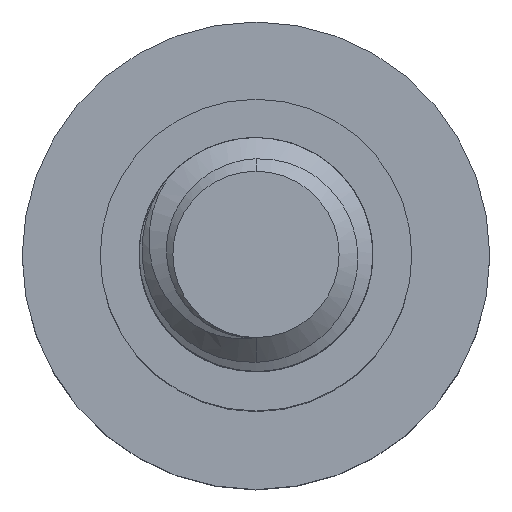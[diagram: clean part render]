
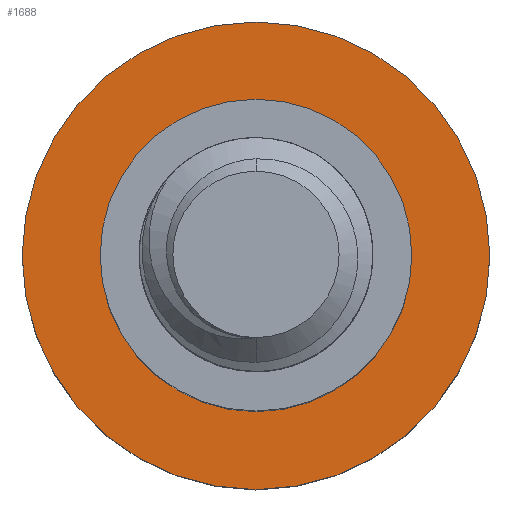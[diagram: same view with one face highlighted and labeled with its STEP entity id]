
A CAD part, top view. The second image highlights one B-rep face of the part: STEP entity #1688.
In plain terms, the highlighted planar face has unit normal (0, 0, 1).
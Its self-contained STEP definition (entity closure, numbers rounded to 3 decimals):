
#41 = CIRCLE ( 'NONE', #1352, 4. ) ;
#81 = DIRECTION ( 'NONE',  ( 0., 0., -1. ) ) ;
#154 = CARTESIAN_POINT ( 'NONE',  ( 0., 0., -10. ) ) ;
#464 = ORIENTED_EDGE ( 'NONE', *, *, #2456, .F. ) ;
#524 = AXIS2_PLACEMENT_3D ( 'NONE', #3650, #81, #2008 ) ;
#775 = DIRECTION ( 'NONE',  ( 0., 0., -1. ) ) ;
#866 = AXIS2_PLACEMENT_3D ( 'NONE', #154, #1086, #2798 ) ;
#1079 = CARTESIAN_POINT ( 'NONE',  ( -6., 0., -10. ) ) ;
#1086 = DIRECTION ( 'NONE',  ( 0., 0., -1. ) ) ;
#1151 = CARTESIAN_POINT ( 'NONE',  ( 0., 0., -10. ) ) ;
#1168 = VERTEX_POINT ( 'NONE', #1079 ) ;
#1172 = CARTESIAN_POINT ( 'NONE',  ( 0., 0., -10. ) ) ;
#1352 = AXIS2_PLACEMENT_3D ( 'NONE', #1172, #3394, #3430 ) ;
#1410 = EDGE_LOOP ( 'NONE', ( #4034, #464 ) ) ;
#1688 = ADVANCED_FACE ( 'NONE', ( #2678, #4251 ), #2936, .F. ) ;
#1753 = DIRECTION ( 'NONE',  ( -1., 0., 0. ) ) ;
#1820 = CARTESIAN_POINT ( 'NONE',  ( 0., 0., -10. ) ) ;
#1921 = EDGE_CURVE ( 'NONE', #2736, #1168, #2441, .T. ) ;
#2002 = EDGE_CURVE ( 'NONE', #2349, #2182, #41, .T. ) ;
#2008 = DIRECTION ( 'NONE',  ( -1., 0., 0. ) ) ;
#2035 = CIRCLE ( 'NONE', #866, 4. ) ;
#2176 = CARTESIAN_POINT ( 'NONE',  ( -4., 0., -10. ) ) ;
#2182 = VERTEX_POINT ( 'NONE', #3371 ) ;
#2349 = VERTEX_POINT ( 'NONE', #2176 ) ;
#2441 = CIRCLE ( 'NONE', #3077, 6. ) ;
#2444 = DIRECTION ( 'NONE',  ( -1., 0., 0. ) ) ;
#2445 = CIRCLE ( 'NONE', #2650, 6. ) ;
#2456 = EDGE_CURVE ( 'NONE', #1168, #2736, #2445, .T. ) ;
#2631 = EDGE_CURVE ( 'NONE', #2182, #2349, #2035, .T. ) ;
#2650 = AXIS2_PLACEMENT_3D ( 'NONE', #1820, #2828, #2444 ) ;
#2678 = FACE_BOUND ( 'NONE', #4115, .T. ) ;
#2736 = VERTEX_POINT ( 'NONE', #3322 ) ;
#2798 = DIRECTION ( 'NONE',  ( -1., 0., 0. ) ) ;
#2828 = DIRECTION ( 'NONE',  ( 0., 0., -1. ) ) ;
#2936 = PLANE ( 'NONE',  #524 ) ;
#2946 = ORIENTED_EDGE ( 'NONE', *, *, #2631, .T. ) ;
#3077 = AXIS2_PLACEMENT_3D ( 'NONE', #1151, #775, #1753 ) ;
#3322 = CARTESIAN_POINT ( 'NONE',  ( 6., 0., -10. ) ) ;
#3371 = CARTESIAN_POINT ( 'NONE',  ( 4., 0., -10. ) ) ;
#3390 = ORIENTED_EDGE ( 'NONE', *, *, #2002, .T. ) ;
#3394 = DIRECTION ( 'NONE',  ( 0., 0., -1. ) ) ;
#3430 = DIRECTION ( 'NONE',  ( -1., 0., 0. ) ) ;
#3650 = CARTESIAN_POINT ( 'NONE',  ( 0., 0., -10. ) ) ;
#4034 = ORIENTED_EDGE ( 'NONE', *, *, #1921, .F. ) ;
#4115 = EDGE_LOOP ( 'NONE', ( #3390, #2946 ) ) ;
#4251 = FACE_OUTER_BOUND ( 'NONE', #1410, .T. ) ;
